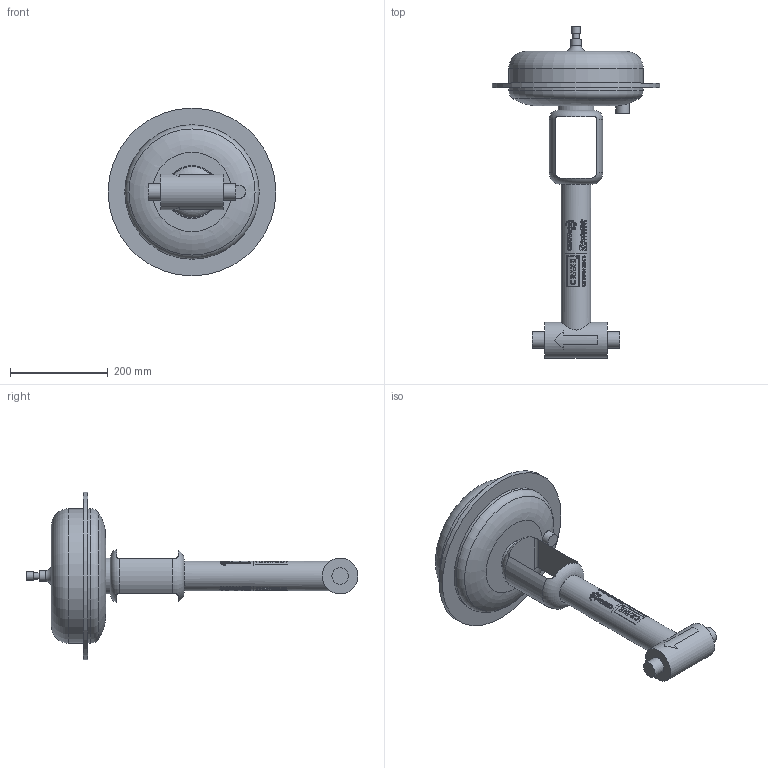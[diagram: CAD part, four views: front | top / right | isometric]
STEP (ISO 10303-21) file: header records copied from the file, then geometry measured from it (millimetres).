
FILE_DESCRIPTION (( 'STEP AP203' ), '1' );
FILE_NAME ('1in T-Pattern Pneumatic TF Valve.step', '2025-12-17T20:08:17', ( '' ), ( '' ), 'SwSTEP 2.0', 'SolidWorks 2023', '' );
FILE_SCHEMA (( 'CONFIG_CONTROL_DESIGN' ));
Products named in the file (1): 1in T-Pattern Pneumatic TF Valve
Bounding box: 342.9 x 678.37 x 342.9 mm (x, y, z)
Volume: 8155092 mm3; surface area: 427794.1 mm2
Topology: 1 solids, 1 shells, 1183 faces, 3032 edges, 2021 vertices
Faces by surface type: plane 752, cylinder 318, bspline 106, torus 6, cone 1
Full cylindrical faces by diameter (mm): 0.896 x2, 0.982 x2, 1.067 x2, 1.223 x2, 1.381 x2, 1.78 x2, 1.842 x2, 2.045 x2, 2.179 x2, 2.284 x2, 2.405 x2, 2.744 x2, 3.706 x2, 4.578 x2, 5.539 x2, 6.45 x2, 12.544 x1, 17.502 x1, 21.561 x1, 27.94 x1, 33.401 x2, 60.325 x1, 73.025 x1, 73.272 x1, 274.58 x2, 342.9 x1
Entity records: 49481 total; most frequent: CARTESIAN_POINT 23456, ORIENTED_EDGE 5902, DIRECTION 4450, EDGE_CURVE 2951, VERTEX_POINT 2011, VECTOR 1548, LINE 1548, AXIS2_PLACEMENT_3D 1451
